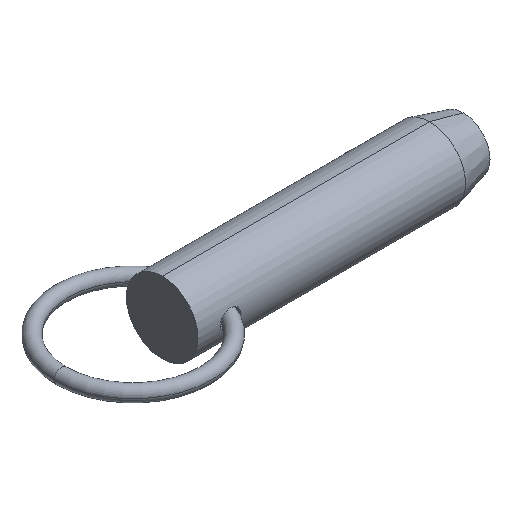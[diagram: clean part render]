
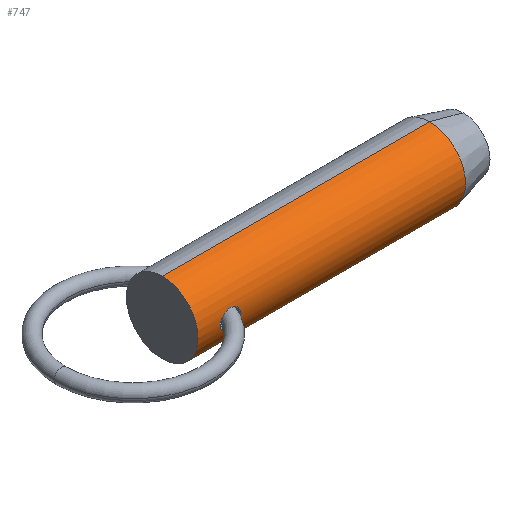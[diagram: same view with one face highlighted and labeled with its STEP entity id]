
A CAD part, isometric view. The second image highlights one B-rep face of the part: STEP entity #747.
In plain terms, the highlighted cylindrical face has radius 7.94 mm (diameter 15.88 mm), a partial arc.
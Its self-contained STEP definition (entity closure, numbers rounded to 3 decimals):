
#1 = CARTESIAN_POINT ( 'NONE',  ( 4.929, -7.94, 0. ) ) ;
#36 = CARTESIAN_POINT ( 'NONE',  ( 9.412, -7.911, 0.691 ) ) ;
#39 = CARTESIAN_POINT ( 'NONE',  ( 5.959, -7.782, 1.576 ) ) ;
#47 = CARTESIAN_POINT ( 'NONE',  ( 5.958, -7.782, -1.576 ) ) ;
#51 = CARTESIAN_POINT ( 'NONE',  ( 6.597, -7.719, 1.861 ) ) ;
#55 = CARTESIAN_POINT ( 'NONE',  ( 5.616, -7.828, -1.332 ) ) ;
#57 = AXIS2_PLACEMENT_3D ( 'NONE', #436, #857, #367 ) ;
#59 = VERTEX_POINT ( 'NONE', #96 ) ;
#64 = FACE_BOUND ( 'NONE', #828, .T. ) ;
#67 = DIRECTION ( 'NONE',  ( 1., 0., 0. ) ) ;
#79 = VERTEX_POINT ( 'NONE', #720 ) ;
#84 = ORIENTED_EDGE ( 'NONE', *, *, #765, .F. ) ;
#96 = CARTESIAN_POINT ( 'NONE',  ( 59.272, 0., 7.94 ) ) ;
#101 = VECTOR ( 'NONE', #762, 1000. ) ;
#105 = CARTESIAN_POINT ( 'NONE',  ( 7.147, -7.691, 1.974 ) ) ;
#111 = CARTESIAN_POINT ( 'NONE',  ( 5.031, -7.922, -0.552 ) ) ;
#113 = DIRECTION ( 'NONE',  ( 1., 0., 0. ) ) ;
#115 = CARTESIAN_POINT ( 'NONE',  ( 5.839, -7.798, -1.5 ) ) ;
#118 = CARTESIAN_POINT ( 'NONE',  ( 6.334, -7.741, 1.766 ) ) ;
#138 = B_SPLINE_CURVE_WITH_KNOTS ( 'NONE', 3,
 ( #535, #611, #523, #376, #455, #452, #814, #382, #39, #184, #118, #51, #323, #312, #105, #374, #389, #597, #803, #177, #675, #319, #170, #875, #887, #36, #733, #667, #316, #250 ),
 .UNSPECIFIED., .F., .F.,
 ( 4, 2, 2, 2, 2, 2, 2, 2, 2, 2, 2, 2, 2, 2, 4 ),
 ( 0., 0.001, 0.002, 0.002, 0.003, 0.003, 0.003, 0.004, 0.005, 0.005, 0.005, 0.006, 0.006, 0.007, 0.007 ),
 .UNSPECIFIED. ) ;
#143 = CARTESIAN_POINT ( 'NONE',  ( 59.272, 0., -7.94 ) ) ;
#167 = CARTESIAN_POINT ( 'NONE',  ( 5.09, -7.912, -0.682 ) ) ;
#170 = CARTESIAN_POINT ( 'NONE',  ( 9.056, -7.835, 1.292 ) ) ;
#174 = CARTESIAN_POINT ( 'NONE',  ( 9.53, -7.94, 0. ) ) ;
#177 = CARTESIAN_POINT ( 'NONE',  ( 8.631, -7.766, 1.655 ) ) ;
#184 = CARTESIAN_POINT ( 'NONE',  ( 6.206, -7.754, 1.709 ) ) ;
#190 = ORIENTED_EDGE ( 'NONE', *, *, #630, .T. ) ;
#194 = ORIENTED_EDGE ( 'NONE', *, *, #292, .T. ) ;
#208 = VERTEX_POINT ( 'NONE', #143 ) ;
#220 = CARTESIAN_POINT ( 'NONE',  ( 9.53, -7.94, 0. ) ) ;
#225 = CARTESIAN_POINT ( 'NONE',  ( 9.53, -7.94, -0.281 ) ) ;
#228 = CIRCLE ( 'NONE', #493, 7.94 ) ;
#242 = CARTESIAN_POINT ( 'NONE',  ( 6.205, -7.754, -1.708 ) ) ;
#250 = CARTESIAN_POINT ( 'NONE',  ( 9.53, -7.94, 0. ) ) ;
#255 = CARTESIAN_POINT ( 'NONE',  ( 7.57, -7.688, -1.985 ) ) ;
#268 = EDGE_CURVE ( 'NONE', #271, #810, #411, .T. ) ;
#269 = CIRCLE ( 'NONE', #57, 7.94 ) ;
#271 = VERTEX_POINT ( 'NONE', #174 ) ;
#284 = ORIENTED_EDGE ( 'NONE', *, *, #495, .T. ) ;
#292 = EDGE_CURVE ( 'NONE', #810, #271, #138, .T. ) ;
#312 = CARTESIAN_POINT ( 'NONE',  ( 7.009, -7.695, 1.956 ) ) ;
#315 = DIRECTION ( 'NONE',  ( 0., 0., -1. ) ) ;
#316 = CARTESIAN_POINT ( 'NONE',  ( 9.53, -7.94, 0.141 ) ) ;
#319 = CARTESIAN_POINT ( 'NONE',  ( 8.958, -7.817, 1.395 ) ) ;
#323 = CARTESIAN_POINT ( 'NONE',  ( 6.734, -7.709, 1.9 ) ) ;
#364 = EDGE_CURVE ( 'NONE', #59, #208, #269, .T. ) ;
#367 = DIRECTION ( 'NONE',  ( 0., 0., -1. ) ) ;
#373 = CARTESIAN_POINT ( 'NONE',  ( 0., 0., -7.94 ) ) ;
#374 = CARTESIAN_POINT ( 'NONE',  ( 7.565, -7.685, 1.996 ) ) ;
#376 = CARTESIAN_POINT ( 'NONE',  ( 5.235, -7.887, 0.922 ) ) ;
#381 = VECTOR ( 'NONE', #797, 1000. ) ;
#382 = CARTESIAN_POINT ( 'NONE',  ( 5.84, -7.797, 1.5 ) ) ;
#385 = CARTESIAN_POINT ( 'NONE',  ( 5.234, -7.887, -0.922 ) ) ;
#389 = CARTESIAN_POINT ( 'NONE',  ( 7.852, -7.693, 1.965 ) ) ;
#407 = CYLINDRICAL_SURFACE ( 'NONE', #665, 7.94 ) ;
#411 = B_SPLINE_CURVE_WITH_KNOTS ( 'NONE', 3,
 ( #220, #225, #507, #777, #735, #745, #658, #446, #527, #530, #798, #255, #464, #741, #730, #602, #242, #47, #115, #55, #878, #883, #385, #167, #111, #672, #726, #868 ),
 .UNSPECIFIED., .F., .F.,
 ( 4, 2, 2, 2, 2, 2, 2, 2, 2, 2, 2, 2, 2, 4 ),
 ( 0.007, 0.008, 0.008, 0.009, 0.01, 0.01, 0.011, 0.011, 0.012, 0.012, 0.013, 0.013, 0.013, 0.014 ),
 .UNSPECIFIED. ) ;
#425 = VERTEX_POINT ( 'NONE', #576 ) ;
#436 = CARTESIAN_POINT ( 'NONE',  ( 59.272, 0., 0. ) ) ;
#446 = CARTESIAN_POINT ( 'NONE',  ( 8.642, -7.766, -1.666 ) ) ;
#451 = LINE ( 'NONE', #373, #381 ) ;
#452 = CARTESIAN_POINT ( 'NONE',  ( 5.513, -7.843, 1.24 ) ) ;
#455 = CARTESIAN_POINT ( 'NONE',  ( 5.321, -7.873, 1.035 ) ) ;
#464 = CARTESIAN_POINT ( 'NONE',  ( 7.427, -7.687, -1.989 ) ) ;
#477 = CARTESIAN_POINT ( 'NONE',  ( 0., 0., 7.94 ) ) ;
#493 = AXIS2_PLACEMENT_3D ( 'NONE', #596, #113, #315 ) ;
#495 = EDGE_CURVE ( 'NONE', #79, #425, #228, .T. ) ;
#507 = CARTESIAN_POINT ( 'NONE',  ( 9.469, -7.924, -0.563 ) ) ;
#523 = CARTESIAN_POINT ( 'NONE',  ( 5.018, -7.924, 0.563 ) ) ;
#527 = CARTESIAN_POINT ( 'NONE',  ( 8.391, -7.734, -1.801 ) ) ;
#530 = CARTESIAN_POINT ( 'NONE',  ( 7.987, -7.703, -1.924 ) ) ;
#535 = CARTESIAN_POINT ( 'NONE',  ( 4.929, -7.94, 0. ) ) ;
#576 = CARTESIAN_POINT ( 'NONE',  ( 0., 0., -7.94 ) ) ;
#596 = CARTESIAN_POINT ( 'NONE',  ( 0., 0., 0. ) ) ;
#597 = CARTESIAN_POINT ( 'NONE',  ( 8.253, -7.723, 1.843 ) ) ;
#602 = CARTESIAN_POINT ( 'NONE',  ( 6.333, -7.741, -1.765 ) ) ;
#609 = DIRECTION ( 'NONE',  ( 0., 0., -1. ) ) ;
#611 = CARTESIAN_POINT ( 'NONE',  ( 4.929, -7.94, 0.284 ) ) ;
#623 = FACE_OUTER_BOUND ( 'NONE', #837, .T. ) ;
#630 = EDGE_CURVE ( 'NONE', #425, #208, #451, .T. ) ;
#658 = CARTESIAN_POINT ( 'NONE',  ( 8.961, -7.818, -1.392 ) ) ;
#665 = AXIS2_PLACEMENT_3D ( 'NONE', #686, #67, #609 ) ;
#667 = CARTESIAN_POINT ( 'NONE',  ( 9.515, -7.936, 0.283 ) ) ;
#672 = CARTESIAN_POINT ( 'NONE',  ( 4.95, -7.936, -0.28 ) ) ;
#675 = CARTESIAN_POINT ( 'NONE',  ( 8.746, -7.782, 1.577 ) ) ;
#678 = ORIENTED_EDGE ( 'NONE', *, *, #364, .F. ) ;
#686 = CARTESIAN_POINT ( 'NONE',  ( 0., 0., 0. ) ) ;
#720 = CARTESIAN_POINT ( 'NONE',  ( 0., 0., 7.94 ) ) ;
#726 = CARTESIAN_POINT ( 'NONE',  ( 4.929, -7.94, -0.142 ) ) ;
#730 = CARTESIAN_POINT ( 'NONE',  ( 6.727, -7.708, -1.908 ) ) ;
#733 = CARTESIAN_POINT ( 'NONE',  ( 9.456, -7.922, 0.558 ) ) ;
#735 = CARTESIAN_POINT ( 'NONE',  ( 9.224, -7.869, -1.067 ) ) ;
#741 = CARTESIAN_POINT ( 'NONE',  ( 7.006, -7.692, -1.967 ) ) ;
#745 = CARTESIAN_POINT ( 'NONE',  ( 9.056, -7.835, -1.291 ) ) ;
#747 = ADVANCED_FACE ( 'NONE', ( #623, #64 ), #407, .T. ) ;
#762 = DIRECTION ( 'NONE',  ( 1., 0., 0. ) ) ;
#765 = EDGE_CURVE ( 'NONE', #79, #59, #831, .T. ) ;
#777 = CARTESIAN_POINT ( 'NONE',  ( 9.297, -7.885, -0.945 ) ) ;
#779 = ORIENTED_EDGE ( 'NONE', *, *, #268, .T. ) ;
#797 = DIRECTION ( 'NONE',  ( 1., 0., 0. ) ) ;
#798 = CARTESIAN_POINT ( 'NONE',  ( 7.849, -7.696, -1.952 ) ) ;
#803 = CARTESIAN_POINT ( 'NONE',  ( 8.385, -7.736, 1.788 ) ) ;
#810 = VERTEX_POINT ( 'NONE', #1 ) ;
#814 = CARTESIAN_POINT ( 'NONE',  ( 5.617, -7.828, 1.332 ) ) ;
#828 = EDGE_LOOP ( 'NONE', ( #194, #779 ) ) ;
#831 = LINE ( 'NONE', #477, #101 ) ;
#837 = EDGE_LOOP ( 'NONE', ( #84, #284, #190, #678 ) ) ;
#857 = DIRECTION ( 'NONE',  ( 1., 0., 0. ) ) ;
#868 = CARTESIAN_POINT ( 'NONE',  ( 4.929, -7.94, 0. ) ) ;
#875 = CARTESIAN_POINT ( 'NONE',  ( 9.223, -7.869, 1.069 ) ) ;
#878 = CARTESIAN_POINT ( 'NONE',  ( 5.512, -7.843, -1.239 ) ) ;
#883 = CARTESIAN_POINT ( 'NONE',  ( 5.321, -7.873, -1.034 ) ) ;
#887 = CARTESIAN_POINT ( 'NONE',  ( 9.294, -7.884, 0.949 ) ) ;
